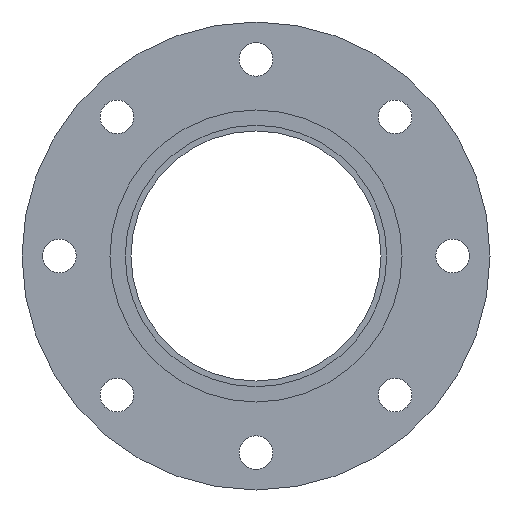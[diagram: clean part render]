
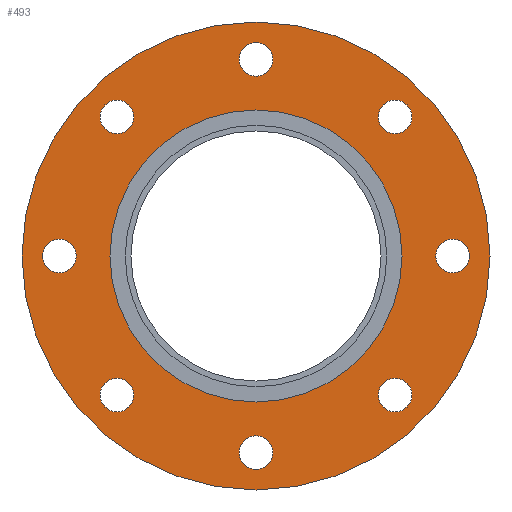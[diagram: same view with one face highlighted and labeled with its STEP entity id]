
A CAD part, left-side view. The second image highlights one B-rep face of the part: STEP entity #493.
In plain terms, the highlighted planar face has unit normal (-1, 0, 0).
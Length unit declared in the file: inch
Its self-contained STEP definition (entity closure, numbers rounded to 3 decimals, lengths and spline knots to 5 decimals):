
#49=FACE_BOUND('',#119,.T.);
#50=FACE_BOUND('',#120,.T.);
#51=FACE_BOUND('',#121,.T.);
#52=FACE_BOUND('',#122,.T.);
#53=FACE_BOUND('',#123,.T.);
#54=FACE_BOUND('',#124,.T.);
#55=FACE_BOUND('',#125,.T.);
#56=FACE_BOUND('',#126,.T.);
#57=FACE_BOUND('',#127,.T.);
#72=PLANE('',#571);
#92=FACE_OUTER_BOUND('',#118,.T.);
#118=EDGE_LOOP('',(#397,#398));
#119=EDGE_LOOP('',(#399));
#120=EDGE_LOOP('',(#400));
#121=EDGE_LOOP('',(#401));
#122=EDGE_LOOP('',(#402));
#123=EDGE_LOOP('',(#403));
#124=EDGE_LOOP('',(#404));
#125=EDGE_LOOP('',(#405));
#126=EDGE_LOOP('',(#406));
#127=EDGE_LOOP('',(#407,#408));
#173=CIRCLE('',#520,0.355);
#175=CIRCLE('',#523,0.355);
#177=CIRCLE('',#526,0.355);
#179=CIRCLE('',#529,0.355);
#181=CIRCLE('',#532,0.355);
#183=CIRCLE('',#535,0.355);
#185=CIRCLE('',#538,0.355);
#187=CIRCLE('',#541,0.355);
#206=CIRCLE('',#569,3.07);
#207=CIRCLE('',#570,3.07);
#208=CIRCLE('',#572,4.92);
#209=CIRCLE('',#573,4.92);
#217=VERTEX_POINT('',#776);
#219=VERTEX_POINT('',#782);
#221=VERTEX_POINT('',#788);
#223=VERTEX_POINT('',#794);
#225=VERTEX_POINT('',#800);
#227=VERTEX_POINT('',#806);
#229=VERTEX_POINT('',#812);
#231=VERTEX_POINT('',#818);
#250=VERTEX_POINT('',#870);
#251=VERTEX_POINT('',#871);
#252=VERTEX_POINT('',#876);
#253=VERTEX_POINT('',#877);
#262=EDGE_CURVE('',#217,#217,#173,.T.);
#265=EDGE_CURVE('',#219,#219,#175,.T.);
#268=EDGE_CURVE('',#221,#221,#177,.T.);
#271=EDGE_CURVE('',#223,#223,#179,.T.);
#274=EDGE_CURVE('',#225,#225,#181,.T.);
#277=EDGE_CURVE('',#227,#227,#183,.T.);
#280=EDGE_CURVE('',#229,#229,#185,.T.);
#283=EDGE_CURVE('',#231,#231,#187,.T.);
#306=EDGE_CURVE('',#250,#251,#206,.T.);
#307=EDGE_CURVE('',#251,#250,#207,.T.);
#309=EDGE_CURVE('',#252,#253,#208,.T.);
#310=EDGE_CURVE('',#253,#252,#209,.T.);
#397=ORIENTED_EDGE('',*,*,#309,.F.);
#398=ORIENTED_EDGE('',*,*,#310,.F.);
#399=ORIENTED_EDGE('',*,*,#262,.T.);
#400=ORIENTED_EDGE('',*,*,#265,.T.);
#401=ORIENTED_EDGE('',*,*,#268,.T.);
#402=ORIENTED_EDGE('',*,*,#271,.T.);
#403=ORIENTED_EDGE('',*,*,#274,.T.);
#404=ORIENTED_EDGE('',*,*,#277,.T.);
#405=ORIENTED_EDGE('',*,*,#280,.T.);
#406=ORIENTED_EDGE('',*,*,#283,.T.);
#407=ORIENTED_EDGE('',*,*,#306,.T.);
#408=ORIENTED_EDGE('',*,*,#307,.T.);
#493=ADVANCED_FACE('',(#92,#49,#50,#51,#52,#53,#54,#55,#56,#57),#72,.T.);
#520=AXIS2_PLACEMENT_3D('',#778,#604,#605);
#523=AXIS2_PLACEMENT_3D('',#784,#611,#612);
#526=AXIS2_PLACEMENT_3D('',#790,#618,#619);
#529=AXIS2_PLACEMENT_3D('',#796,#625,#626);
#532=AXIS2_PLACEMENT_3D('',#802,#632,#633);
#535=AXIS2_PLACEMENT_3D('',#808,#639,#640);
#538=AXIS2_PLACEMENT_3D('',#814,#646,#647);
#541=AXIS2_PLACEMENT_3D('',#820,#653,#654);
#569=AXIS2_PLACEMENT_3D('',#872,#713,#714);
#570=AXIS2_PLACEMENT_3D('',#873,#715,#716);
#571=AXIS2_PLACEMENT_3D('',#875,#718,#719);
#572=AXIS2_PLACEMENT_3D('',#878,#720,#721);
#573=AXIS2_PLACEMENT_3D('',#879,#722,#723);
#604=DIRECTION('center_axis',(1.,0.,0.));
#605=DIRECTION('ref_axis',(0.,0.707,0.707));
#611=DIRECTION('center_axis',(1.,0.,0.));
#612=DIRECTION('ref_axis',(0.,1.,0.));
#618=DIRECTION('center_axis',(1.,0.,0.));
#619=DIRECTION('ref_axis',(0.,0.707,-0.707));
#625=DIRECTION('center_axis',(1.,0.,0.));
#626=DIRECTION('ref_axis',(0.,0.,-1.));
#632=DIRECTION('center_axis',(1.,0.,0.));
#633=DIRECTION('ref_axis',(0.,-0.707,-0.707));
#639=DIRECTION('center_axis',(1.,0.,0.));
#640=DIRECTION('ref_axis',(0.,-1.,0.));
#646=DIRECTION('center_axis',(1.,0.,0.));
#647=DIRECTION('ref_axis',(0.,-0.707,0.707));
#653=DIRECTION('center_axis',(1.,0.,0.));
#654=DIRECTION('ref_axis',(0.,0.,1.));
#713=DIRECTION('center_axis',(1.,0.,0.));
#714=DIRECTION('ref_axis',(0.,0.,-1.));
#715=DIRECTION('center_axis',(1.,0.,0.));
#716=DIRECTION('ref_axis',(0.,0.,-1.));
#718=DIRECTION('center_axis',(-1.,0.,0.));
#719=DIRECTION('ref_axis',(0.,0.,1.));
#720=DIRECTION('center_axis',(1.,0.,0.));
#721=DIRECTION('ref_axis',(0.,0.,-1.));
#722=DIRECTION('center_axis',(1.,0.,0.));
#723=DIRECTION('ref_axis',(0.,0.,-1.));
#776=CARTESIAN_POINT('',(-0.87,2.67286,-3.17491));
#778=CARTESIAN_POINT('Origin',(-0.87,2.92389,-2.92389));
#782=CARTESIAN_POINT('',(-0.87,-0.355,-4.135));
#784=CARTESIAN_POINT('Origin',(-0.87,0.,
-4.135));
#788=CARTESIAN_POINT('',(-0.87,-3.17491,-2.67286));
#790=CARTESIAN_POINT('Origin',(-0.87,-2.92389,-2.92389));
#794=CARTESIAN_POINT('',(-0.87,-4.135,0.355));
#796=CARTESIAN_POINT('Origin',(-0.87,-4.135,0.));
#800=CARTESIAN_POINT('',(-0.87,-2.67286,3.17491));
#802=CARTESIAN_POINT('Origin',(-0.87,-2.92389,2.92389));
#806=CARTESIAN_POINT('',(-0.87,0.355,4.135));
#808=CARTESIAN_POINT('Origin',(-0.87,0.,
4.135));
#812=CARTESIAN_POINT('',(-0.87,3.17491,2.67286));
#814=CARTESIAN_POINT('Origin',(-0.87,2.92389,2.92389));
#818=CARTESIAN_POINT('',(-0.87,4.135,-0.355));
#820=CARTESIAN_POINT('Origin',(-0.87,4.135,0.));
#870=CARTESIAN_POINT('',(-0.87,3.07,0.));
#871=CARTESIAN_POINT('',(-0.87,-3.07,0.));
#872=CARTESIAN_POINT('Origin',(-0.87,0.,0.));
#873=CARTESIAN_POINT('Origin',(-0.87,0.,0.));
#875=CARTESIAN_POINT('Origin',(-0.87,4.92,0.));
#876=CARTESIAN_POINT('',(-0.87,4.92,0.));
#877=CARTESIAN_POINT('',(-0.87,-4.92,0.));
#878=CARTESIAN_POINT('Origin',(-0.87,0.,
0.));
#879=CARTESIAN_POINT('Origin',(-0.87,0.,
0.));
